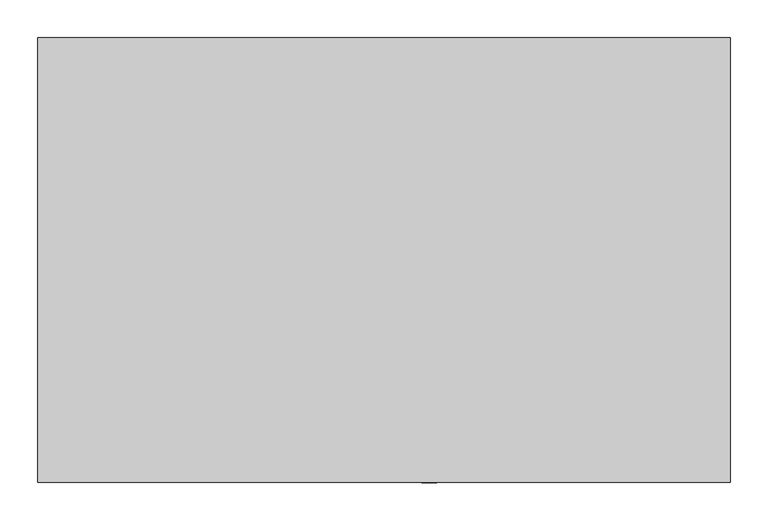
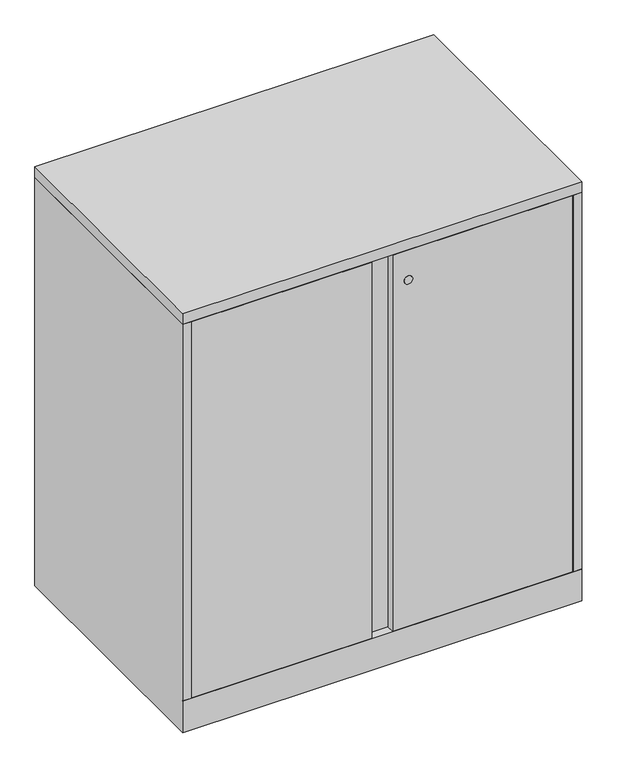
"""IFC4 building model written with IfcOpenShell, lengths in millimetres: furniture geometry, Steelcase - Universal Storage - Cabinet - Storage - 40H-52H - Flush Steel : 40H x 23 1/8D x 36W."""

from ifc_helpers import new_model, si_unit, point, frame, frame_2d, origin, place, context, project, spatial, polyline, circle_curve, trimmed, segment, composite_curve, outline, extrude, faceted_brep, source, transform, mapped, element, save


def furniture_c5d1fa62(model_context):
    return source(origin(), model_context, "Body", "SolidModel", [
        extrude(outline(polyline([(914.4, 0.0), (914.4, -587.502), (0.0, -587.502), (0.0, 0.0), (914.4, 0.0)])), frame((0.0, 0.0, 990.6), z_axis=(0.0, 0.0, 1.0), x_axis=(1.0, 0.0, 0.0)), (0.0, 0.0, 1.0), 25.4000484),
        extrude(outline(composite_curve([segment(trimmed(circle_curve(frame_2d((917.575, 517.0109835)), 9.7167829), [point((917.575, 526.7277664))], [point((917.575, 507.2942006))], False, "CARTESIAN"), True, "CONTINUOUS"), segment(trimmed(circle_curve(frame_2d((917.575, 517.0109835)), 9.7167829), [point((917.575, 507.2942006))], [point((917.575, 526.7277664))], False, "CARTESIAN"), True, "CONTINUOUS")], self_intersect=False)), frame((0.0, -588.1715275, 0.0), z_axis=(0.0, 1.0, 0.0), x_axis=(0.0, 0.0, 1.0)), (0.0, 0.0, 1.0), 0.6695275),
        extrude(outline(polyline([(20.8280006, -561.975866), (893.572, -561.975866), (893.572, -587.502), (481.33, -587.502), (481.33, -568.3258781), (433.07, -568.3258781), (433.07, -587.502), (20.8280006, -587.502), (20.8280006, -561.975866)])), frame((0.0, 0.0, 77.724), z_axis=(0.0, 0.0, 1.0), x_axis=(1.0, 0.0, 0.0)), (0.0, 0.0, 1.0), 911.606),
        faceted_brep([(914.4, 0.0, 0.0), (914.4, -587.502, 0.0), (0.0, -587.502, 0.0), (0.0, 0.0, 0.0), (0.0, 0.0, 990.6), (914.4, 0.0, 990.6), (0.0, -587.502, 76.2), (0.0, -587.502, 77.724), (0.0, -587.502, 990.6), (914.4, -587.502, 76.2), (914.4, -587.502, 990.6), (914.4, -587.502, 77.724), (889.0000242, -25.4000008, 990.6), (889.0000242, -560.4518674, 990.6), (893.572, -560.4518674, 990.6), (893.572, -561.9758781, 990.6), (895.096, -561.9758781, 990.6), (895.096, -587.502, 990.6), (19.304, -587.502, 990.6), (19.304, -561.975866, 990.6), (20.8280006, -561.975866, 990.6), (20.8280006, -560.4518674, 990.6), (25.4000008, -560.4518674, 990.6), (25.4000008, -25.4000008, 990.6), (19.304, -587.502, 77.724), (19.304, -568.198, 77.724), (895.096, -587.502, 77.724), (895.096, -568.0718418, 77.724), (889.0000242, -25.4000008, 77.724), (889.0000242, -560.4518674, 77.724), (893.572, -560.4518674, 77.724), (893.572, -561.9758781, 77.724), (895.096, -561.9758781, 77.724), (19.304, -561.975866, 77.724), (20.8280006, -561.975866, 77.724), (20.8280006, -560.4518674, 77.724), (25.4000008, -560.4518674, 77.724), (25.4000008, -25.4000008, 77.724), (25.526134, -561.975866, 77.724), (889.0000242, -561.975866, 77.724)], [[[0, 1, 2, 3]], [[0, 3, 4, 5]], [[4, 3, 2, 6, 7, 8]], [[2, 1, 9, 6]], [[1, 0, 5, 10, 11, 9]], [[12, 13, 14, 15, 16, 17, 10, 5, 4, 8, 18, 19, 20, 21, 22, 23]], [[24, 7, 25]], [[11, 26, 27]], [[13, 12, 28, 29]], [[14, 13, 29, 30]], [[15, 14, 30, 31]], [[16, 15, 31, 32]], [[17, 16, 32, 27, 26]], [[10, 17, 26, 11]], [[18, 8, 7, 24]], [[19, 18, 24, 25, 33]], [[20, 19, 33, 34]], [[21, 20, 34, 35]], [[22, 21, 35, 36]], [[23, 22, 36, 37]], [[12, 23, 37, 28]], [[38, 39, 27, 32, 31, 30, 29, 28, 37, 36, 35, 34, 33, 25]], [[7, 6, 38, 25]], [[39, 38, 6, 9]], [[39, 9, 11, 27]]]),
    ])


if __name__ == "__main__":
    model = new_model("IFC4")
    model_context = context("Model", 3, world=origin())
    ifc_project = project(units=[si_unit("LENGTHUNIT", "METRE", prefix="MILLI")], contexts=[model_context])
    site = spatial("IfcSite", under=ifc_project)
    building = spatial("IfcBuilding", under=site)
    placement = place(None, origin())
    furniture_shape = furniture_c5d1fa62(model_context)
    element("IfcFurniture", 1, ObjectType="Steelcase - Universal Storage - Cabinet - Storage - 40H-52H - Flush Steel : 40H x 23 1/8D x 36W", at=placement, inside=building, context=model_context, shape_type="MappedRepresentation", body=[
        mapped(furniture_shape, transform((0.0, 0.0, 0.0), x_axis=(1.0, 0.0, 0.0), y_axis=(0.0, 1.0, 0.0), z_axis=(0.0, 0.0, 1.0))),
    ])
    save(model, "model.ifc")
